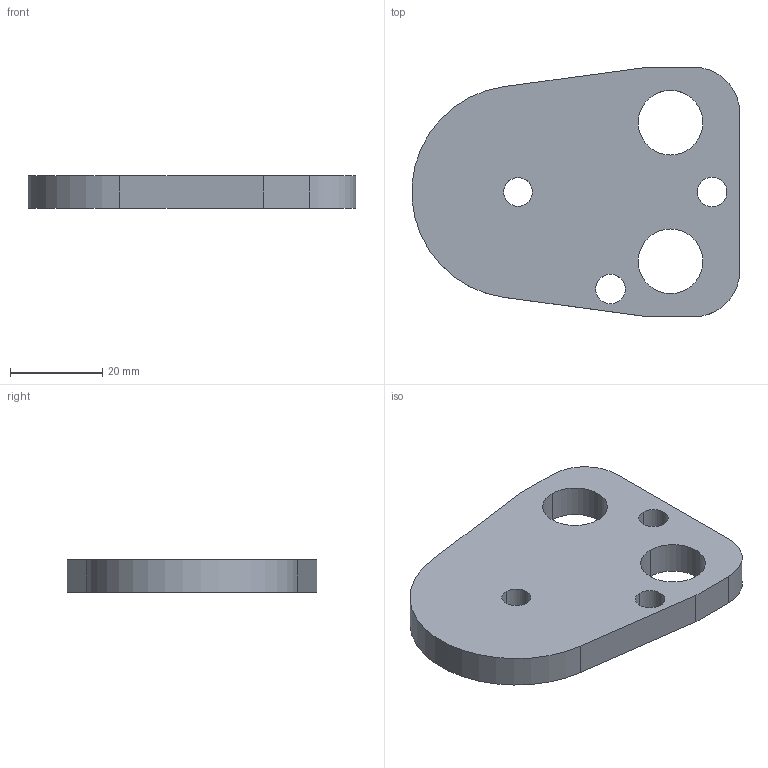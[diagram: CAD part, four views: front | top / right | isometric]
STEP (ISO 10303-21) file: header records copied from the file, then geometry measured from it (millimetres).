
FILE_DESCRIPTION(/* description */ (''),/* implementation_level */ '2;1');
FILE_NAME(/* name */ '3d_bpc32-7_03396_r00.stp',/* time_stamp */ '2011-01-10T14:17:09+09:00',/* author */ ('MISUMI'),/* organization */ (''),/* preprocessor_version */ 'ST-DEVELOPER v11',/* originating_system */ 'UGS - NX 5.0',/* authorisation */ '');
FILE_SCHEMA (('CONFIG_CONTROL_DESIGN'));
Length unit declared in the file: millimetre
Products named in the file (1): 3d_bpc32-7_03396_r00
Bounding box: 70.92 x 54 x 7 mm (x, y, z)
Volume: 20103.5 mm3; surface area: 8277 mm2
Topology: 1 solids, 1 shells, 20 faces, 54 edges, 36 vertices
Faces by surface type: cylinder 13, plane 7
Entity records: 750 total; most frequent: DIRECTION 122, CARTESIAN_POINT 111, ORIENTED_EDGE 108, EDGE_CURVE 54, AXIS2_PLACEMENT_3D 47, VERTEX_POINT 36, EDGE_LOOP 30, LINE 28
